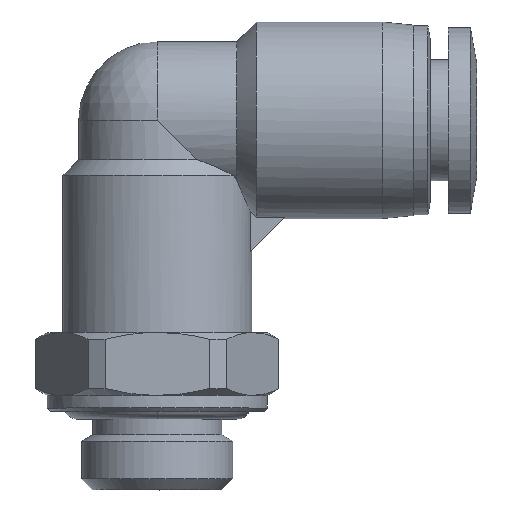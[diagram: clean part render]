
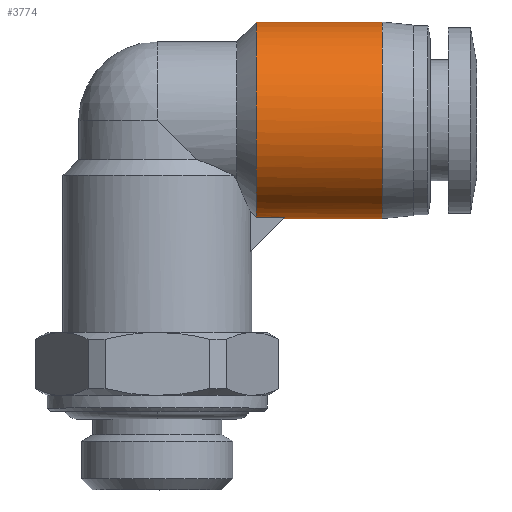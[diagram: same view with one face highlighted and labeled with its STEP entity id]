
A CAD part, top view. The second image highlights one B-rep face of the part: STEP entity #3774.
In plain terms, the highlighted cylindrical face has radius 6.25 mm (diameter 12.5 mm), a partial arc.
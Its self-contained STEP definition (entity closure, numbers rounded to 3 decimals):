
#44 = CARTESIAN_POINT ( 'NONE',  ( 6.3, 16.933, 5.28 ) ) ;
#155 = CARTESIAN_POINT ( 'NONE',  ( 14.3, 7.413, 1.636 ) ) ;
#200 = CARTESIAN_POINT ( 'NONE',  ( 14.3, 19.75, 0. ) ) ;
#223 = CARTESIAN_POINT ( 'NONE',  ( 14.3, 19.75, 0. ) ) ;
#300 = CARTESIAN_POINT ( 'NONE',  ( 6.3, 13.228, 6.292 ) ) ;
#322 = CARTESIAN_POINT ( 'NONE',  ( 6.3, 19.75, 0.776 ) ) ;
#331 = AXIS2_PLACEMENT_3D ( 'NONE', #3540, #515, #3901 ) ;
#415 = CARTESIAN_POINT ( 'NONE',  ( 10.3, 7.25, 0. ) ) ;
#436 = VERTEX_POINT ( 'NONE', #467 ) ;
#467 = CARTESIAN_POINT ( 'NONE',  ( 8.081, 7.331, 1. ) ) ;
#487 = CARTESIAN_POINT ( 'NONE',  ( 14.3, 18.498, 3.841 ) ) ;
#515 = DIRECTION ( 'NONE',  ( 1., 0., 0. ) ) ;
#638 = VERTEX_POINT ( 'NONE', #3253 ) ;
#652 = CARTESIAN_POINT ( 'NONE',  ( 6.3, 19.75, 0. ) ) ;
#674 = CARTESIAN_POINT ( 'NONE',  ( 6.3, 15.537, 5.959 ) ) ;
#683 = VECTOR ( 'NONE', #3373, 1000. ) ;
#717 = CARTESIAN_POINT ( 'NONE',  ( 6.3, 19.604, 1.552 ) ) ;
#739 = CARTESIAN_POINT ( 'NONE',  ( 6.3, 7.331, 1. ) ) ;
#899 = CARTESIAN_POINT ( 'NONE',  ( 14.3, 15.136, 6.087 ) ) ;
#1027 = B_SPLINE_CURVE_WITH_KNOTS ( 'NONE', 3,
 ( #223, #2880, #4247, #3858, #487, #3921, #3208, #899, #1832, #4205, #2532, #4226, #3164, #2553, #1142, #155, #3511, #2832 ),
 .UNSPECIFIED., .F., .F.,
 ( 4, 2, 2, 2, 2, 2, 2, 2, 4 ),
 ( 0., 0.063, 0.125, 0.188, 0.25, 0.313, 0.375, 0.438, 0.5 ),
 .UNSPECIFIED. ) ;
#1076 = VERTEX_POINT ( 'NONE', #3752 ) ;
#1142 = CARTESIAN_POINT ( 'NONE',  ( 14.3, 8.039, 3.148 ) ) ;
#1145 = FACE_OUTER_BOUND ( 'NONE', #3484, .T. ) ;
#1185 = B_SPLINE_CURVE_WITH_KNOTS ( 'NONE', 3,
 ( #4187, #2514, #3862, #2884 ),
 .UNSPECIFIED., .F., .F.,
 ( 4, 4 ),
 ( 0., 1. ),
 .UNSPECIFIED. ) ;
#1241 = EDGE_CURVE ( 'NONE', #436, #2567, #1185, .T. ) ;
#1281 = EDGE_CURVE ( 'NONE', #3406, #436, #1288, .T. ) ;
#1283 = LINE ( 'NONE', #1641, #683 ) ;
#1288 = B_SPLINE_CURVE_WITH_KNOTS ( 'NONE', 3,
 ( #2236, #2255, #1945, #4291 ),
 .UNSPECIFIED., .F., .F.,
 ( 4, 4 ),
 ( 0.5, 1. ),
 .UNSPECIFIED. ) ;
#1318 = ORIENTED_EDGE ( 'NONE', *, *, #1638, .F. ) ;
#1332 = CARTESIAN_POINT ( 'NONE',  ( 6.3, 18.62, 3.668 ) ) ;
#1638 = EDGE_CURVE ( 'NONE', #2164, #638, #1027, .T. ) ;
#1641 = CARTESIAN_POINT ( 'NONE',  ( 10.3, 19.75, 0. ) ) ;
#1643 = CARTESIAN_POINT ( 'NONE',  ( 6.3, 12.443, 6.209 ) ) ;
#1686 = CARTESIAN_POINT ( 'NONE',  ( 6.3, 7.331, 1. ) ) ;
#1769 = ORIENTED_EDGE ( 'NONE', *, *, #4296, .F. ) ;
#1803 = CARTESIAN_POINT ( 'NONE',  ( 8., 7.25, 0. ) ) ;
#1832 = CARTESIAN_POINT ( 'NONE',  ( 14.3, 14.318, 6.25 ) ) ;
#1931 = EDGE_CURVE ( 'NONE', #1076, #2567, #2833, .T. ) ;
#1945 = CARTESIAN_POINT ( 'NONE',  ( 8.026, 7.276, 0.667 ) ) ;
#2020 = CARTESIAN_POINT ( 'NONE',  ( 6.3, 9.033, 4.44 ) ) ;
#2161 = ORIENTED_EDGE ( 'NONE', *, *, #1931, .T. ) ;
#2164 = VERTEX_POINT ( 'NONE', #200 ) ;
#2236 = CARTESIAN_POINT ( 'NONE',  ( 8., 7.25, 0. ) ) ;
#2255 = CARTESIAN_POINT ( 'NONE',  ( 7.999, 7.249, 0.333 ) ) ;
#2290 = ORIENTED_EDGE ( 'NONE', *, *, #3288, .T. ) ;
#2403 = ORIENTED_EDGE ( 'NONE', *, *, #1241, .F. ) ;
#2514 = CARTESIAN_POINT ( 'NONE',  ( 7.487, 7.331, 1. ) ) ;
#2532 = CARTESIAN_POINT ( 'NONE',  ( 14.3, 11.864, 6.087 ) ) ;
#2553 = CARTESIAN_POINT ( 'NONE',  ( 14.3, 8.502, 3.841 ) ) ;
#2567 = VERTEX_POINT ( 'NONE', #739 ) ;
#2674 = CARTESIAN_POINT ( 'NONE',  ( 6.3, 14.775, 6.168 ) ) ;
#2695 = CARTESIAN_POINT ( 'NONE',  ( 6.3, 7.455, 1.766 ) ) ;
#2832 = CARTESIAN_POINT ( 'NONE',  ( 14.3, 7.25, 0. ) ) ;
#2833 = B_SPLINE_CURVE_WITH_KNOTS ( 'NONE', 3,
 ( #652, #322, #717, #3712, #1332, #3305, #44, #674, #2674, #300, #1643, #2979, #4022, #2020, #4068, #3026, #2695, #1686 ),
 .UNSPECIFIED., .F., .F.,
 ( 4, 2, 2, 2, 2, 2, 2, 2, 4 ),
 ( 0.5, 0.563, 0.625, 0.688, 0.75, 0.813, 0.875, 0.938, 1. ),
 .UNSPECIFIED. ) ;
#2880 = CARTESIAN_POINT ( 'NONE',  ( 14.3, 19.75, 0.818 ) ) ;
#2884 = CARTESIAN_POINT ( 'NONE',  ( 6.3, 7.331, 1. ) ) ;
#2979 = CARTESIAN_POINT ( 'NONE',  ( 6.3, 10.956, 5.761 ) ) ;
#3026 = CARTESIAN_POINT ( 'NONE',  ( 6.3, 7.723, 2.509 ) ) ;
#3092 = LINE ( 'NONE', #415, #3245 ) ;
#3164 = CARTESIAN_POINT ( 'NONE',  ( 14.3, 9.659, 4.998 ) ) ;
#3208 = CARTESIAN_POINT ( 'NONE',  ( 14.3, 16.648, 5.461 ) ) ;
#3245 = VECTOR ( 'NONE', #3717, 1000. ) ;
#3253 = CARTESIAN_POINT ( 'NONE',  ( 14.3, 7.25, 0. ) ) ;
#3288 = EDGE_CURVE ( 'NONE', #3406, #638, #3092, .T. ) ;
#3305 = CARTESIAN_POINT ( 'NONE',  ( 6.3, 17.567, 4.809 ) ) ;
#3337 = ORIENTED_EDGE ( 'NONE', *, *, #1281, .F. ) ;
#3373 = DIRECTION ( 'NONE',  ( 1., 0., 0. ) ) ;
#3406 = VERTEX_POINT ( 'NONE', #1803 ) ;
#3484 = EDGE_LOOP ( 'NONE', ( #3337, #2290, #1318, #1769, #2161, #2403 ) ) ;
#3511 = CARTESIAN_POINT ( 'NONE',  ( 14.3, 7.25, 0.818 ) ) ;
#3515 = CYLINDRICAL_SURFACE ( 'NONE', #331, 6.25 ) ;
#3540 = CARTESIAN_POINT ( 'NONE',  ( 10.3, 13.5, 0. ) ) ;
#3712 = CARTESIAN_POINT ( 'NONE',  ( 6.3, 19.039, 2.998 ) ) ;
#3717 = DIRECTION ( 'NONE',  ( 1., 0., 0. ) ) ;
#3752 = CARTESIAN_POINT ( 'NONE',  ( 6.3, 19.75, 0. ) ) ;
#3774 = ADVANCED_FACE ( 'NONE', ( #1145 ), #3515, .T. ) ;
#3858 = CARTESIAN_POINT ( 'NONE',  ( 14.3, 18.961, 3.148 ) ) ;
#3862 = CARTESIAN_POINT ( 'NONE',  ( 6.894, 7.331, 1. ) ) ;
#3901 = DIRECTION ( 'NONE',  ( 0., 1., 0. ) ) ;
#3921 = CARTESIAN_POINT ( 'NONE',  ( 14.3, 17.341, 4.998 ) ) ;
#4022 = CARTESIAN_POINT ( 'NONE',  ( 6.3, 10.255, 5.398 ) ) ;
#4068 = CARTESIAN_POINT ( 'NONE',  ( 6.3, 8.513, 3.846 ) ) ;
#4187 = CARTESIAN_POINT ( 'NONE',  ( 8.081, 7.331, 1. ) ) ;
#4205 = CARTESIAN_POINT ( 'NONE',  ( 14.3, 12.682, 6.25 ) ) ;
#4226 = CARTESIAN_POINT ( 'NONE',  ( 14.3, 10.352, 5.461 ) ) ;
#4247 = CARTESIAN_POINT ( 'NONE',  ( 14.3, 19.587, 1.636 ) ) ;
#4291 = CARTESIAN_POINT ( 'NONE',  ( 8.081, 7.331, 1. ) ) ;
#4296 = EDGE_CURVE ( 'NONE', #1076, #2164, #1283, .T. ) ;
